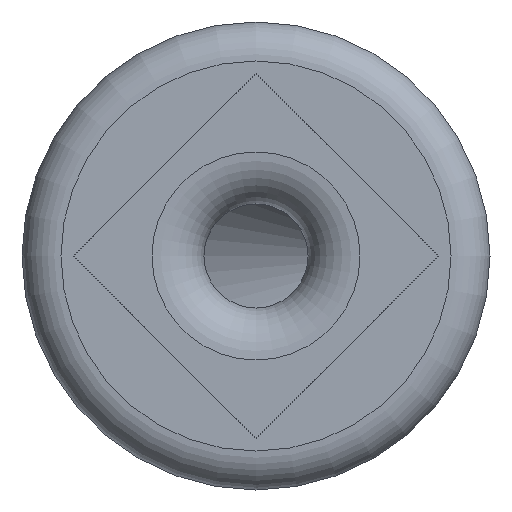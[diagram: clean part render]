
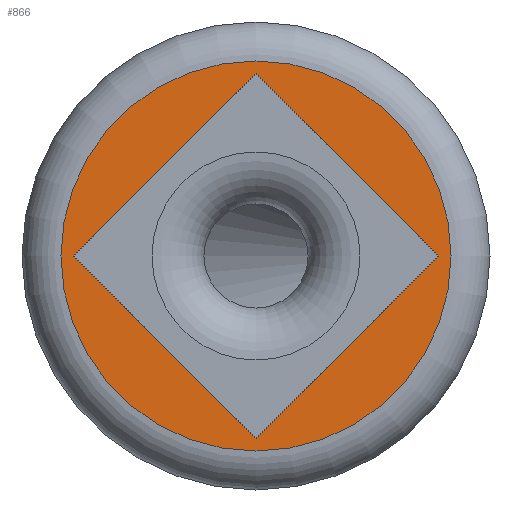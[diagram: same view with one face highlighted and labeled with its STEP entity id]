
A CAD part, front view. The second image highlights one B-rep face of the part: STEP entity #866.
In plain terms, the highlighted planar face has unit normal (0, -1, 0).
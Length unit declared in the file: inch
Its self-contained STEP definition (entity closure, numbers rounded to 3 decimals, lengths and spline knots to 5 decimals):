
#19=FACE_BOUND('',#160,.T.);
#24=PLANE('',#955);
#61=CIRCLE('',#953,0.75);
#62=CIRCLE('',#954,0.75);
#108=FACE_OUTER_BOUND('',#159,.T.);
#159=EDGE_LOOP('',(#757,#758));
#160=EDGE_LOOP('',(#759,#760,#761,#762));
#256=LINE('',#4275,#300);
#257=LINE('',#4277,#301);
#258=LINE('',#4279,#302);
#259=LINE('',#4280,#303);
#300=VECTOR('',#1137,0.3937);
#301=VECTOR('',#1138,0.3937);
#302=VECTOR('',#1139,0.3937);
#303=VECTOR('',#1140,0.3937);
#386=VERTEX_POINT('',#4267);
#387=VERTEX_POINT('',#4269);
#388=VERTEX_POINT('',#4273);
#389=VERTEX_POINT('',#4274);
#390=VERTEX_POINT('',#4276);
#391=VERTEX_POINT('',#4278);
#512=EDGE_CURVE('',#386,#387,#61,.T.);
#513=EDGE_CURVE('',#387,#386,#62,.T.);
#514=EDGE_CURVE('',#388,#389,#256,.T.);
#515=EDGE_CURVE('',#389,#390,#257,.T.);
#516=EDGE_CURVE('',#390,#391,#258,.T.);
#517=EDGE_CURVE('',#391,#388,#259,.T.);
#757=ORIENTED_EDGE('',*,*,#513,.F.);
#758=ORIENTED_EDGE('',*,*,#512,.F.);
#759=ORIENTED_EDGE('',*,*,#514,.T.);
#760=ORIENTED_EDGE('',*,*,#515,.T.);
#761=ORIENTED_EDGE('',*,*,#516,.T.);
#762=ORIENTED_EDGE('',*,*,#517,.T.);
#866=ADVANCED_FACE('',(#108,#19),#24,.F.);
#953=AXIS2_PLACEMENT_3D('',#4270,#1131,#1132);
#954=AXIS2_PLACEMENT_3D('',#4271,#1133,#1134);
#955=AXIS2_PLACEMENT_3D('',#4272,#1135,#1136);
#1131=DIRECTION('center_axis',(0.,1.,0.));
#1132=DIRECTION('ref_axis',(1.,0.,0.));
#1133=DIRECTION('center_axis',(0.,1.,0.));
#1134=DIRECTION('ref_axis',(1.,0.,0.));
#1135=DIRECTION('center_axis',(0.,1.,0.));
#1136=DIRECTION('ref_axis',(1.,0.,0.));
#1137=DIRECTION('',(0.707,0.,0.707));
#1138=DIRECTION('',(0.707,0.,-0.707));
#1139=DIRECTION('',(-0.707,0.,-0.707));
#1140=DIRECTION('',(-0.707,0.,0.707));
#4267=CARTESIAN_POINT('',(0.,0.,-0.75));
#4269=CARTESIAN_POINT('',(-0.75,0.,0.));
#4270=CARTESIAN_POINT('Origin',(0.,0.,0.));
#4271=CARTESIAN_POINT('Origin',(0.,0.,0.));
#4272=CARTESIAN_POINT('Origin',(0.,0.,0.));
#4273=CARTESIAN_POINT('',(-0.7,0.,0.));
#4274=CARTESIAN_POINT('',(0.,0.,0.7));
#4275=CARTESIAN_POINT('',(-0.175,0.,0.525));
#4276=CARTESIAN_POINT('',(0.7,0.,0.));
#4277=CARTESIAN_POINT('',(0.525,0.,0.175));
#4278=CARTESIAN_POINT('',(0.,0.,-0.7));
#4279=CARTESIAN_POINT('',(0.175,0.,-0.525));
#4280=CARTESIAN_POINT('',(-0.525,0.,-0.175));
